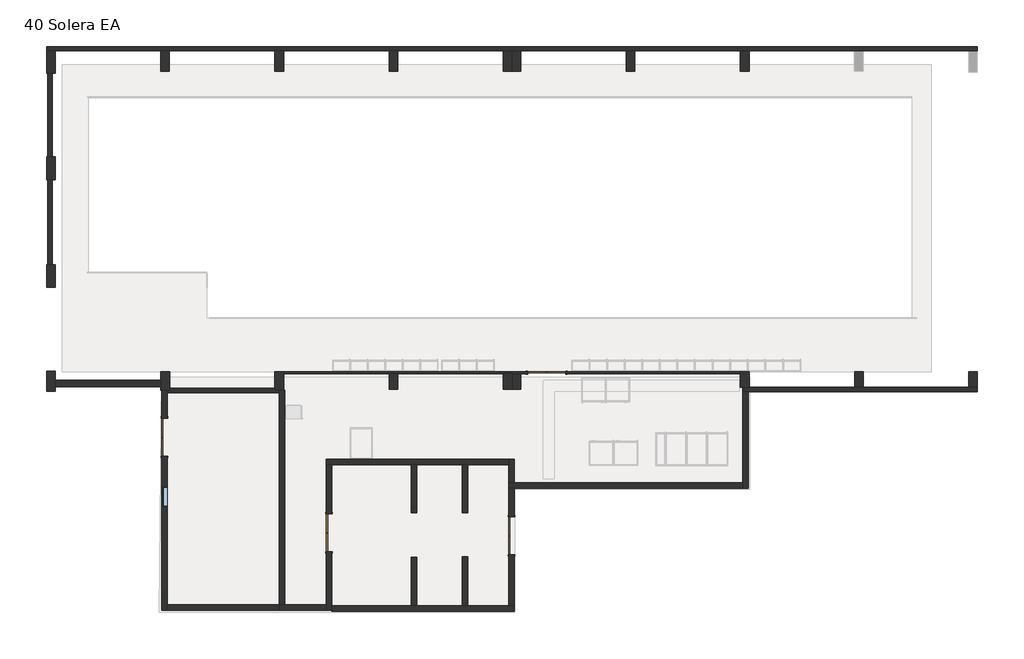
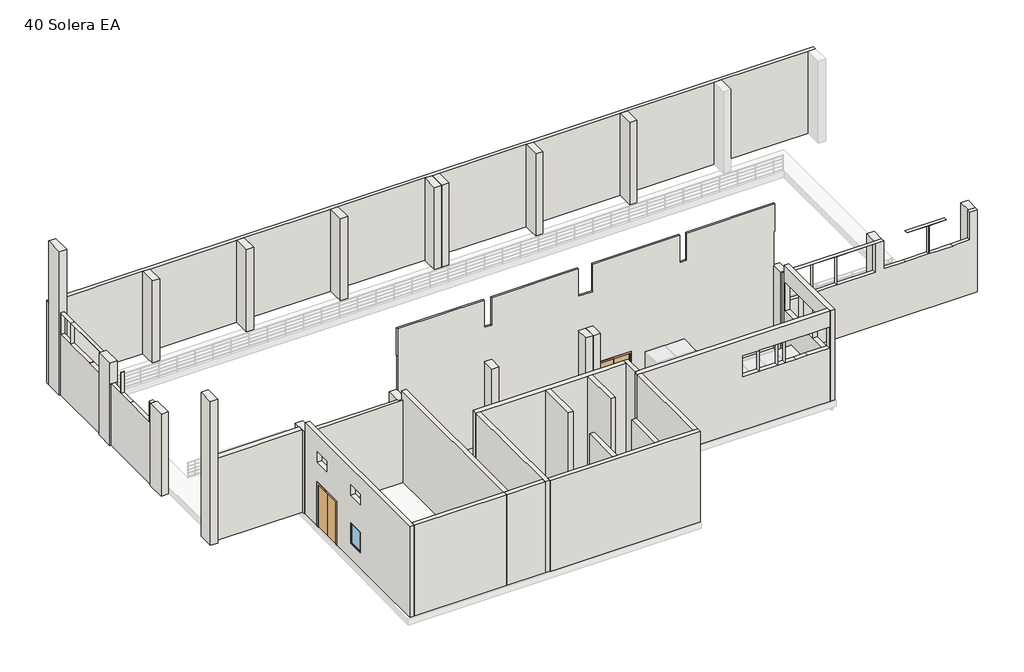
# One storey, part 1 of 3: 41 walls, 4 doors, 1 window.
"""IFC4 building model written with IfcOpenShell, lengths in millimetres."""

from ifc_helpers import new_model, si_unit, frame, origin, place, context, project, spatial, polyline, outline, extrude, faceted_brep, transform, mapped, element, save
from components import door_1730_x_2500mm_2afba01b, door_1730_x_2500mm_de458978, fijo_0915_x_1220mm_3f3afe46

model = new_model("IFC4")

# Units and contexts
model_context = context("Model", 3, world=origin())
ifc_project = project(units=[si_unit("LENGTHUNIT", "METRE", prefix="MILLI")], contexts=[model_context])

# Site, building, storey
site = spatial("IfcSite", under=ifc_project)
building = spatial("IfcBuilding", under=site)
storey = spatial("IfcBuildingStorey", under=building, Name="40 Solera EA", Elevation=-1800.0)

# Doors
placement = place(None, origin())
door_1730_x_2500mm_shape = door_1730_x_2500mm_2afba01b(model_context)
element("IfcDoor", 1, ObjectType="Puerta atamborada de 2 hojas : 1730 x 2500mm", at=placement, inside=storey, context=model_context, shape_type="MappedRepresentation", body=[
    mapped(door_1730_x_2500mm_shape, transform((-6453.5311914, -6074.0986286, -1800.0), x_axis=(0.0, 1.0, 0.0), y_axis=(-1.0, 0.0, 0.0), z_axis=(0.0, 0.0, 1.0))),
])
element("IfcDoor", 2, ObjectType="Puerta atamborada de 2 hojas : 1730 x 2500mm", at=placement, inside=storey, context=model_context, shape_type="MappedRepresentation", body=[
    mapped(door_1730_x_2500mm_shape, transform((-13953.4635346, -1710.2899843, -1800.0), x_axis=(0.0, 1.0, 0.0), y_axis=(-1.0, 0.0, 0.0), z_axis=(0.0, 0.0, 1.0))),
])
element("IfcDoor", 3, ObjectType="Puerta atamborada de 2 hojas : 1730 x 2500mm", at=placement, inside=storey, context=model_context, shape_type="MappedRepresentation", body=[
    mapped(door_1730_x_2500mm_shape, transform((1846.4688086, -6207.5518891, -1800.0), x_axis=(0.0, 1.0, 0.0), y_axis=(-1.0, 0.0, 0.0), z_axis=(0.0, 0.0, 1.0))),
])
door_1730_x_2500mm_2_shape = door_1730_x_2500mm_de458978(model_context)
element("IfcDoor", 4, ObjectType="Puerta atamborada de 2 hojas : 1730 x 2500mm", at=placement, inside=storey, context=model_context, shape_type="MappedRepresentation", body=[
    mapped(door_1730_x_2500mm_2_shape, transform((3448.1881312, 1213.4120119, -1800.0), x_axis=(1.0, 0.0, 0.0), y_axis=(0.0, 1.0, 0.0), z_axis=(0.0, 0.0, 1.0))),
])

# Walls
element("IfcWall", 5, ObjectType="Genérico - 200 mm", at=placement, inside=storey, context=model_context, shape_type="Brep", body=[
    faceted_brep([(-19327.8798655, 15874.7100157, -1800.0), (-18927.8798655, 15874.7100157, -1800.0), (-14127.8798655, 15874.7100157, -1800.0), (-13727.8798655, 15874.7100157, -1800.0), (-8927.8798655, 15874.7100157, -1800.0), (-8527.8798655, 15874.7100157, -1800.0), (-3727.8798655, 15874.7100157, -1800.0), (-3327.8798655, 15874.7100157, -1800.0), (1472.1201345, 15874.7100157, -1800.0), (1872.1201345, 15874.7100157, -1800.0), (2272.1201345, 15874.7100157, -1800.0), (7072.1201345, 15874.7100157, -1800.0), (7472.1201345, 15874.7100157, -1800.0), (12272.1201345, 15874.7100157, -1800.0), (12672.1201345, 15874.7100157, -1800.0), (17472.1201345, 15874.7100157, -1800.0), (17872.1201345, 15874.7100157, -1800.0), (22672.1201345, 15874.7100157, -1800.0), (23072.1201345, 15874.7100157, -1800.0), (23072.1201345, 15874.7100157, 3000.0), (22672.1201345, 15874.7100157, 3000.0), (17872.1201345, 15874.7100157, 3000.0), (17472.1201345, 15874.7100157, 3000.0), (12672.1201345, 15874.7100157, 3000.0), (12272.1201345, 15874.7100157, 3000.0), (7472.1201345, 15874.7100157, 3000.0), (7072.1201345, 15874.7100157, 3000.0), (2272.1201345, 15874.7100157, 3000.0), (1872.1201345, 15874.7100157, 3000.0), (1472.1201345, 15874.7100157, 3000.0), (-3327.8798655, 15874.7100157, 3000.0), (-3727.8798655, 15874.7100157, 3000.0), (-8527.8798655, 15874.7100157, 3000.0), (-8927.8798655, 15874.7100157, 3000.0), (-13727.8798655, 15874.7100157, 3000.0), (-14127.8798655, 15874.7100157, 3000.0), (-19327.8798655, 15874.7100157, 3000.0), (-19327.8798655, 16074.7100157, -1800.0), (-19327.8798655, 16074.7100157, 3000.0), (23072.1201345, 16074.7100157, 3000.0), (23072.1201345, 16074.7100157, -1800.0)], [[[0, 1, 2, 3, 4, 5, 6, 7, 8, 9, 10, 11, 12, 13, 14, 15, 16, 17, 18, 19, 20, 21, 22, 23, 24, 25, 26, 27, 28, 29, 30, 31, 32, 33, 34, 35, 36]], [[37, 38, 39, 40]], [[18, 17, 16, 15, 14, 13, 12, 11, 10, 9, 8, 7, 6, 5, 4, 3, 2, 1, 0, 37, 40]], [[36, 35, 34, 33, 32, 31, 30, 29, 28, 27, 26, 25, 24, 23, 22, 21, 20, 19, 39, 38]], [[19, 18, 40, 39]], [[0, 36, 38, 37]]]),
])
element("IfcWall", 6, ObjectType="Genérico - 200 mm", at=placement, inside=storey, context=model_context, shape_type="Brep", body=[
    faceted_brep([(23073.1881312, 554.7100157, -1800.0), (22673.1881312, 554.7100157, -1800.0), (17873.1881312, 554.7100157, -1800.0), (17473.1881312, 554.7100157, -1800.0), (12673.1881312, 554.7100157, -1800.0), (12381.4688086, 554.7100157, -1800.0), (12381.4688086, 554.7100157, 3000.0), (12673.1881312, 554.7100157, 3000.0), (17473.1881312, 554.7100157, 3000.0), (17873.1881312, 554.7100157, 3000.0), (17881.0753154, 554.7100157, 3000.0), (17881.0753154, 554.7100157, 1354.7269681), (19087.2499965, 554.7100157, 1354.7269681), (19087.2499965, 554.7100157, 1347.1972914), (20387.2499965, 554.7100157, 1347.1972914), (20387.2499965, 554.7100157, 2997.1972914), (19181.0753154, 554.7100157, 2997.1972914), (19181.0753154, 554.7100157, 3000.0), (21352.5869044, 554.7100157, 3000.0), (21352.5869044, 554.7100157, 2997.1972914), (20406.4122233, 554.7100157, 2997.1972914), (20406.4122233, 554.7100157, 1347.1972914), (21706.4122233, 554.7100157, 1347.1972914), (21706.4122233, 554.7100157, 1369.7863215), (22652.5869044, 554.7100157, 1369.7863215), (22652.5869044, 554.7100157, 3000.0), (22673.1881312, 554.7100157, 3000.0), (23073.1881312, 554.7100157, 3000.0), (13996.6155946, 554.7100157, 2972.2566448), (13996.6155946, 554.7100157, 1322.2566448), (15296.6155946, 554.7100157, 1322.2566448), (15296.6155946, 554.7100157, 2972.2566448), (17409.2039605, 554.7100157, 1322.2566448), (17409.2039605, 554.7100157, 2972.2566448), (15310.5591548, 554.7100157, 2972.2566448), (15310.5591548, 554.7100157, 1322.2566448), (12679.0869796, 554.7100157, 2977.1972914), (12679.0869796, 554.7100157, 1327.1972914), (13979.0869796, 554.7100157, 1327.1972914), (13979.0869796, 554.7100157, 2977.1972914), (12381.4688086, 354.7100157, -1800.0), (23073.1881312, 354.7100157, -1800.0), (23073.1881312, 354.7100157, 3000.0), (22652.5869044, 354.7100157, 3000.0), (22652.5869044, 354.7100157, 1369.7863215), (21706.4122233, 354.7100157, 1369.7863215), (21706.4122233, 354.7100157, 1347.1972914), (20406.4122233, 354.7100157, 1347.1972914), (20406.4122233, 354.7100157, 2997.1972914), (21352.5869044, 354.7100157, 2997.1972914), (21352.5869044, 354.7100157, 3000.0), (19181.0753154, 354.7100157, 3000.0), (19181.0753154, 354.7100157, 2997.1972914), (20387.2499965, 354.7100157, 2997.1972914), (20387.2499965, 354.7100157, 1347.1972914), (19087.2499965, 354.7100157, 1347.1972914), (19087.2499965, 354.7100157, 1354.7269681), (17881.0753154, 354.7100157, 1354.7269681), (17881.0753154, 354.7100157, 3000.0), (12381.4688086, 354.7100157, 3000.0), (13996.6155946, 354.7100157, 1322.2566448), (13996.6155946, 354.7100157, 2972.2566448), (15296.6155946, 354.7100157, 2972.2566448), (15296.6155946, 354.7100157, 1322.2566448), (17409.2039605, 354.7100157, 2972.2566448), (17409.2039605, 354.7100157, 1322.2566448), (15310.5591548, 354.7100157, 1322.2566448), (15310.5591548, 354.7100157, 2972.2566448), (12679.0869796, 354.7100157, 1327.1972914), (12679.0869796, 354.7100157, 2977.1972914), (13979.0869796, 354.7100157, 2977.1972914), (13979.0869796, 354.7100157, 1327.1972914)], [[[0, 1, 2, 3, 4, 5, 6, 7, 8, 9, 10, 11, 12, 13, 14, 15, 16, 17, 18, 19, 20, 21, 22, 23, 24, 25, 26, 27], [28, 29, 30, 31], [32, 33, 34, 35], [36, 37, 38, 39]], [[40, 41, 42, 43, 44, 45, 46, 47, 48, 49, 50, 51, 52, 53, 54, 55, 56, 57, 58, 59], [60, 61, 62, 63], [64, 65, 66, 67], [68, 69, 70, 71]], [[5, 4, 3, 2, 1, 0, 41, 40]], [[42, 27, 26, 25, 43]], [[17, 51, 50, 18]], [[10, 9, 8, 7, 6, 59, 58]], [[0, 27, 42, 41]], [[60, 29, 28, 61]], [[61, 28, 31, 62]], [[62, 31, 30, 63]], [[29, 60, 63, 30]], [[34, 67, 66, 35]], [[67, 34, 33, 64]], [[64, 33, 32, 65]], [[35, 66, 65, 32]], [[55, 13, 12, 56]], [[15, 53, 52, 16]], [[53, 15, 14, 54]], [[13, 55, 54, 14]], [[19, 18, 50, 49]], [[24, 44, 43, 25]], [[44, 24, 23, 45]], [[57, 11, 10, 58]], [[51, 17, 16, 52]], [[11, 57, 56, 12]], [[47, 21, 20, 48]], [[22, 46, 45, 23]], [[21, 47, 46, 22]], [[68, 37, 36, 69]], [[38, 71, 70, 39]], [[37, 68, 71, 38]], [[48, 20, 19, 49]], [[39, 70, 69, 36]], [[6, 5, 40, 59]]]),
])
element("IfcWall", 7, ObjectType="Genérico - 200 mm", at=placement, inside=storey, context=model_context, shape_type="SweptSolid", body=[
    extrude(outline(polyline([(10004.7100157, -1800.0), (6144.7100157, -1800.0), (6144.7100157, 3000.0), (6344.7100157, 3000.0), (6344.7100157, 1793.8402223), (8174.7100157, 1793.8402223), (8174.7100157, 1780.2623266), (9089.7100157, 1780.2623266), (9089.7100157, 3000.0), (9094.7100157, 3000.0), (9094.7100157, 1780.0), (10004.7100157, 1780.0), (10004.7100157, -1800.0)])), frame((-19266.8118688, 0.0, 0.0), z_axis=(1.0, 0.0, 0.0), x_axis=(0.0, 1.0, 0.0)), (0.0, 0.0, 1.0), 200.0),
])
element("IfcWall", 8, ObjectType="Retención - Hormigón 250 mm", at=placement, inside=storey, context=model_context, shape_type="Brep", body=[
    faceted_brep([(12381.4688086, 354.7100157, -1800.0), (12381.4688086, -3792.5518891, -1800.0), (12381.4688086, -4042.5518891, -1800.0), (12381.4688086, -4042.5518891, 3500.0), (12381.4688086, -3792.5518891, 3500.0), (12381.4688086, 354.7100157, 3500.0), (12381.4688086, -2347.7899843, 2526.835855), (12381.4688086, -2347.7899843, 876.835855), (12381.4688086, -1047.7899843, 876.835855), (12381.4688086, -1047.7899843, 2526.835855), (12381.4688086, -1032.7899843, 2521.074937), (12381.4688086, -1032.7899843, 871.074937), (12381.4688086, 267.2100157, 871.074937), (12381.4688086, 267.2100157, 2521.074937), (12381.4688086, -3665.0518891, 2522.5967729), (12381.4688086, -3665.0518891, 872.5967729), (12381.4688086, -2365.0518891, 872.5967729), (12381.4688086, -2365.0518891, 2522.5967729), (12631.4688086, -4042.5518891, -1800.0), (12631.4688086, 354.7100157, -1800.0), (12631.4688086, 354.7100157, 3500.0), (12631.4688086, -4042.5518891, 3500.0), (12631.4688086, -2347.7899843, 876.835855), (12631.4688086, -2347.7899843, 2526.835855), (12631.4688086, -1047.7899843, 2526.835855), (12631.4688086, -1047.7899843, 876.835855), (12631.4688086, -1032.7899843, 871.074937), (12631.4688086, -1032.7899843, 2521.074937), (12631.4688086, 267.2100157, 2521.074937), (12631.4688086, 267.2100157, 871.074937), (12631.4688086, -3665.0518891, 872.5967729), (12631.4688086, -3665.0518891, 2522.5967729), (12631.4688086, -2365.0518891, 2522.5967729), (12631.4688086, -2365.0518891, 872.5967729)], [[[0, 1, 2, 3, 4, 5], [6, 7, 8, 9], [10, 11, 12, 13], [14, 15, 16, 17]], [[18, 19, 20, 21], [22, 23, 24, 25], [26, 27, 28, 29], [30, 31, 32, 33]], [[2, 1, 0, 19, 18]], [[5, 4, 3, 21, 20]], [[3, 2, 18, 21]], [[22, 7, 6, 23]], [[9, 24, 23, 6]], [[24, 9, 8, 25]], [[7, 22, 25, 8]], [[26, 11, 10, 27]], [[27, 10, 13, 28]], [[28, 13, 12, 29]], [[11, 26, 29, 12]], [[30, 15, 14, 31]], [[31, 14, 17, 32]], [[16, 33, 32, 17]], [[15, 30, 33, 16]], [[0, 5, 20, 19]]]),
])
element("IfcWall", 9, ObjectType="Retención - Hormigón 250 mm", at=placement, inside=storey, context=model_context, shape_type="Brep", body=[
    faceted_brep([(12381.4688086, -3792.5518891, -1800.0), (1971.4688086, -3792.5518891, -1800.0), (1721.4688086, -3792.5518891, -1800.0), (1721.4688086, -3792.5518891, 3500.0), (1971.4688086, -3792.5518891, 3500.0), (12381.4688086, -3792.5518891, 3500.0), (11121.4688086, -3792.5518891, 2544.1577348), (10511.4688086, -3792.5518891, 2544.1577348), (10511.4688086, -3792.5518891, 2543.3524925), (9901.4688086, -3792.5518891, 2543.3524925), (9901.4688086, -3792.5518891, 1323.3524925), (10511.4688086, -3792.5518891, 1323.3524925), (10511.4688086, -3792.5518891, 1324.1577348), (11121.4688086, -3792.5518891, 1324.1577348), (11121.4688086, -3792.5518891, 1323.310356), (12341.4688086, -3792.5518891, 1323.3885309), (12341.4688086, -3792.5518891, 2543.3885309), (11121.4688086, -3792.5518891, 2543.310356), (9488.9688086, -3792.5518891, 1322.5051137), (9488.9688086, -3792.5518891, 2542.5051137), (8473.4688086, -3792.5518891, 2542.5051137), (8473.4688086, -3792.5518891, 1322.5051137), (7553.9688086, -3792.5518891, 2540.810356), (7553.9688086, -3792.5518891, 1320.810356), (8468.9688086, -3792.5518891, 1320.810356), (8468.9688086, -3792.5518891, 2540.810356), (9492.4688086, -3792.5518891, 2542.5051137), (9492.4688086, -3792.5518891, 1322.5051137), (9898.4688086, -3792.5518891, 1322.5051137), (9898.4688086, -3792.5518891, 2542.5051137), (1721.4688086, -4042.5518891, -1800.0), (1971.4688086, -4042.5518891, -1800.0), (12381.4688086, -4042.5518891, -1800.0), (12381.4688086, -4042.5518891, 3500.0), (1971.4688086, -4042.5518891, 3500.0), (1721.4688086, -4042.5518891, 3500.0), (11121.4688086, -4042.5518891, 1323.310356), (11121.4688086, -4042.5518891, 1324.1577348), (10511.4688086, -4042.5518891, 1324.1577348), (10511.4688086, -4042.5518891, 1323.3524925), (9901.4688086, -4042.5518891, 1323.3524925), (9901.4688086, -4042.5518891, 2543.3524925), (10511.4688086, -4042.5518891, 2543.3524925), (10511.4688086, -4042.5518891, 2544.1577348), (11121.4688086, -4042.5518891, 2544.1577348), (11121.4688086, -4042.5518891, 2543.310356), (12341.4688086, -4042.5518891, 2543.3885309), (12341.4688086, -4042.5518891, 1323.3885309), (9488.9688086, -4042.5518891, 2542.5051137), (9488.9688086, -4042.5518891, 1322.5051137), (8473.4688086, -4042.5518891, 1322.5051137), (8473.4688086, -4042.5518891, 2542.5051137), (7553.9688086, -4042.5518891, 1320.810356), (7553.9688086, -4042.5518891, 2540.810356), (8468.9688086, -4042.5518891, 2540.810356), (8468.9688086, -4042.5518891, 1320.810356), (9492.4688086, -4042.5518891, 1322.5051137), (9492.4688086, -4042.5518891, 2542.5051137), (9898.4688086, -4042.5518891, 2542.5051137), (9898.4688086, -4042.5518891, 1322.5051137)], [[[0, 1, 2, 3, 4, 5], [6, 7, 8, 9, 10, 11, 12, 13, 14, 15, 16, 17], [18, 19, 20, 21], [22, 23, 24, 25], [26, 27, 28, 29]], [[30, 31, 32, 33, 34, 35], [36, 37, 38, 39, 40, 41, 42, 43, 44, 45, 46, 47], [48, 49, 50, 51], [52, 53, 54, 55], [56, 57, 58, 59]], [[2, 1, 0, 32, 31, 30]], [[5, 4, 3, 35, 34, 33]], [[0, 5, 33, 32]], [[3, 2, 30, 35]], [[36, 14, 13, 37]], [[7, 43, 42, 8]], [[43, 7, 6, 44]], [[44, 6, 17, 45]], [[13, 12, 38, 37]], [[40, 10, 9, 41]], [[41, 9, 8, 42]], [[11, 39, 38, 12]], [[39, 11, 10, 40]], [[48, 19, 18, 49]], [[51, 50, 21, 20]], [[19, 48, 51, 20]], [[49, 18, 21, 50]], [[52, 23, 22, 53]], [[53, 22, 25, 54]], [[54, 25, 24, 55]], [[23, 52, 55, 24]], [[26, 57, 56, 27]], [[57, 26, 29, 58]], [[58, 29, 28, 59]], [[28, 27, 56, 59]], [[16, 46, 45, 17]], [[46, 16, 15, 47]], [[14, 36, 47, 15]]]),
])
element("IfcWall", 10, ObjectType="Retención - Hormigón 250 mm", at=placement, inside=storey, context=model_context, shape_type="Brep", body=[
    faceted_brep([(1971.4688086, -3792.5518891, -1800.0), (1971.4688086, -2719.0986286, -1800.0), (1971.4688086, -2719.0986286, 3500.0), (1971.4688086, -3792.5518891, 3500.0), (1721.4688086, -3792.5518891, -1800.0), (1721.4688086, -3792.5518891, 3500.0), (1721.4688086, -2969.0986286, 3500.0), (1721.4688086, -2719.0986286, 3500.0), (1721.4688086, -2719.0986286, -1800.0), (1721.4688086, -2969.0986286, -1800.0)], [[[0, 1, 2, 3]], [[4, 5, 6, 7, 8, 9]], [[1, 0, 4, 9, 8]], [[3, 2, 7, 6, 5]], [[0, 3, 5, 4]], [[2, 1, 8, 7]]]),
])
element("IfcWall", 11, ObjectType="Retención - Hormigón 250 mm", at=placement, inside=storey, context=model_context, shape_type="Brep", body=[
    faceted_brep([(1721.4688086, -2719.0986286, -1800.0), (-6578.5311914, -2719.0986286, -1800.0), (-6578.5311914, -2719.0986286, 3500.0), (1721.4688086, -2719.0986286, 3500.0), (1721.4688086, -2969.0986286, -1800.0), (1721.4688086, -2969.0986286, 3500.0), (-151.3649196, -2969.0986286, 3500.0), (-401.3649196, -2969.0986286, 3500.0), (-2473.5311914, -2969.0986286, 3500.0), (-2723.5311914, -2969.0986286, 3500.0), (-6328.5311914, -2969.0986286, 3500.0), (-6578.5311914, -2969.0986286, 3500.0), (-6578.5311914, -2969.0986286, -1800.0), (-6328.5311914, -2969.0986286, -1800.0), (-2723.5311914, -2969.0986286, -1800.0), (-2473.5311914, -2969.0986286, -1800.0), (-401.3649196, -2969.0986286, -1800.0), (-151.3649196, -2969.0986286, -1800.0)], [[[0, 1, 2, 3]], [[4, 5, 6, 7, 8, 9, 10, 11, 12, 13, 14, 15, 16, 17]], [[1, 0, 4, 17, 16, 15, 14, 13, 12]], [[3, 2, 11, 10, 9, 8, 7, 6, 5]], [[0, 3, 5, 4]], [[2, 1, 12, 11]]]),
])
element("IfcWall", 12, ObjectType="Retención - Hormigón 250 mm", at=placement, inside=storey, context=model_context, shape_type="Brep", body=[
    faceted_brep([(-6578.5311914, -9609.0986286, 3500.0), (-6578.5311914, -9359.0986286, 3500.0), (-6578.5311914, -2969.0986286, 3500.0), (-6578.5311914, -2969.0986286, -1800.0), (-6578.5311914, -5209.0986286, -1800.0), (-6578.5311914, -5209.0986286, 700.0), (-6578.5311914, -6939.0986286, 700.0), (-6578.5311914, -6939.0986286, -1800.0), (-6578.5311914, -9359.0986286, -1800.0), (-6578.5311914, -9609.0986286, -1800.0), (-6328.5311914, -2969.0986286, 3500.0), (-6328.5311914, -9402.5685795, 3500.0), (-6328.5311914, -9609.0986286, 3500.0), (-6328.5311914, -9609.0986286, -1800.0), (-6328.5311914, -9402.5685795, -1800.0), (-6328.5311914, -6939.0986286, -1800.0), (-6328.5311914, -6939.0986286, 700.0), (-6328.5311914, -5209.0986286, 700.0), (-6328.5311914, -5209.0986286, -1800.0), (-6328.5311914, -2969.0986286, -1800.0)], [[[0, 1, 2, 3, 4, 5, 6, 7, 8, 9]], [[10, 11, 12, 13, 14, 15, 16, 17, 18, 19]], [[3, 19, 18, 4]], [[13, 9, 8, 7, 15, 14]], [[2, 1, 0, 12, 11, 10]], [[3, 2, 10, 19]], [[0, 9, 13, 12]], [[17, 5, 4, 18]], [[5, 17, 16, 6]], [[6, 16, 15, 7]]]),
])
element("IfcWall", 13, ObjectType="Retención - Hormigón 250 mm", at=placement, inside=storey, context=model_context, shape_type="Brep", body=[
    faceted_brep([(-6578.5311914, -9359.0986286, -1800.0), (-8468.5311914, -9359.0986286, -1800.0), (-8718.5311914, -9359.0986286, -1800.0), (-8718.5311914, -9359.0986286, 3500.0), (-8468.5311914, -9359.0986286, 3500.0), (-6578.5311914, -9359.0986286, 3500.0), (-6578.5311914, -9609.0986286, -1800.0), (-6578.5311914, -9609.0986286, 3500.0), (-8718.5311914, -9609.0986286, 3500.0), (-8718.5311914, -9609.0986286, -1800.0)], [[[0, 1, 2, 3, 4, 5]], [[6, 7, 8, 9]], [[2, 1, 0, 6, 9]], [[5, 4, 3, 8, 7]], [[0, 5, 7, 6]], [[3, 2, 9, 8]]]),
])
element("IfcWall", 14, ObjectType="Retención - Hormigón 250 mm", at=placement, inside=storey, context=model_context, shape_type="Brep", body=[
    faceted_brep([(-8468.5311914, -9359.0986286, -1800.0), (-8468.5311914, 412.2136056, -1800.0), (-8468.5311914, 412.2136056, 3500.0), (-8468.5311914, -9359.0986286, 3500.0), (-8718.5311914, -9359.0986286, -1800.0), (-8718.5311914, -9359.0986286, 3500.0), (-8718.5311914, 412.2136056, 3500.0), (-8718.5311914, 412.2136056, 3000.0), (-8718.5311914, 412.2136056, -1800.0), (-8718.5311914, 312.2136056, -1800.0)], [[[0, 1, 2, 3]], [[4, 5, 6, 7, 8, 9]], [[1, 0, 4, 9, 8]], [[2, 1, 8, 7, 6]], [[3, 2, 6, 5]], [[0, 3, 5, 4]]]),
])
element("IfcWall", 15, ObjectType="Retención - Hormigón 250 mm", at=placement, inside=storey, context=model_context, shape_type="Brep", body=[
    faceted_brep([(-14078.4635346, -9609.0986286, 3500.0), (-14078.4635346, 412.2136056, 3500.0), (-14078.4635346, 412.2136056, -1800.0), (-14078.4635346, -845.2899843, -1800.0), (-14078.4635346, -845.2899843, 700.0), (-14078.4635346, -2575.2899843, 700.0), (-14078.4635346, -2575.2899843, -1800.0), (-14078.4635346, -9609.0986286, -1800.0), (-14078.4635346, -1660.2899843, 1913.2756678), (-14078.4635346, -745.2899843, 1913.2756678), (-14078.4635346, -745.2899843, 2523.2756678), (-14078.4635346, -1660.2899843, 2523.2756678), (-14078.4635346, -4875.2899843, 1929.6506121), (-14078.4635346, -3960.2899843, 1929.6506121), (-14078.4635346, -3960.2899843, 2539.6506121), (-14078.4635346, -4875.2899843, 2539.6506121), (-14078.4635346, -4890.2899843, -885.0), (-14078.4635346, -3975.2899843, -885.0), (-14078.4635346, -3975.2899843, 335.0), (-14078.4635346, -4890.2899843, 335.0), (-13828.4635346, 412.2136056, 3500.0), (-13828.4635346, -9359.0986286, 3500.0), (-13828.4635346, -9609.0986286, 3500.0), (-13828.4635346, -9609.0986286, -1800.0), (-13828.4635346, -9359.0986286, -1800.0), (-13828.4635346, -2575.2899843, -1800.0), (-13828.4635346, -2575.2899843, 700.0), (-13828.4635346, -845.2899843, 700.0), (-13828.4635346, -845.2899843, -1800.0), (-13828.4635346, 312.2136056, -1800.0), (-13828.4635346, 412.2136056, -1800.0), (-13828.4635346, 412.2136056, 3000.0), (-13828.4635346, -1660.2899843, 1913.2756678), (-13828.4635346, -1660.2899843, 2523.2756678), (-13828.4635346, -745.2899843, 2523.2756678), (-13828.4635346, -745.2899843, 1913.2756678), (-13828.4635346, -4875.2899843, 1929.6506121), (-13828.4635346, -4875.2899843, 2539.6506121), (-13828.4635346, -3960.2899843, 2539.6506121), (-13828.4635346, -3960.2899843, 1929.6506121), (-13828.4635346, -4890.2899843, -885.0), (-13828.4635346, -4890.2899843, 335.0), (-13828.4635346, -3975.2899843, 335.0), (-13828.4635346, -3975.2899843, -885.0)], [[[0, 1, 2, 3, 4, 5, 6, 7], [8, 9, 10, 11], [12, 13, 14, 15], [16, 17, 18, 19]], [[20, 21, 22, 23, 24, 25, 26, 27, 28, 29, 30, 31], [32, 33, 34, 35], [36, 37, 38, 39], [40, 41, 42, 43]], [[2, 30, 29, 28, 3]], [[23, 7, 6, 25, 24]], [[1, 0, 22, 21, 20]], [[2, 1, 20, 31, 30]], [[0, 7, 23, 22]], [[27, 4, 3, 28]], [[4, 27, 26, 5]], [[5, 26, 25, 6]], [[33, 32, 8, 11]], [[34, 33, 11, 10]], [[35, 34, 10, 9]], [[32, 35, 9, 8]], [[37, 36, 12, 15]], [[38, 37, 15, 14]], [[39, 38, 14, 13]], [[36, 39, 13, 12]], [[41, 40, 16, 19]], [[42, 41, 19, 18]], [[43, 42, 18, 17]], [[40, 43, 17, 16]]]),
])
element("IfcWall", 16, ObjectType="Retención - Hormigón 250 mm", at=placement, inside=storey, context=model_context, shape_type="SweptSolid", body=[
    extrude(outline(polyline([(-8718.5311914, -9609.0986286), (-13828.4635346, -9609.0986286), (-13828.4635346, -9359.0986286), (-8718.5311914, -9359.0986286), (-8718.5311914, -9609.0986286)])), frame((0.0, 0.0, -1800.0), z_axis=(0.0, 0.0, 1.0), x_axis=(1.0, 0.0, 0.0)), (0.0, 0.0, 1.0), 5300.0),
])
element("IfcWall", 17, ObjectType="Retención - Hormigón 250 mm", at=placement, inside=storey, context=model_context, shape_type="Brep", body=[
    faceted_brep([(-6328.5311914, -9652.5685795, -1800.0), (1971.4688086, -9652.5685795, -1800.0), (1971.4688086, -9652.5685795, 3500.0), (-6328.5311914, -9652.5685795, 3500.0), (-6328.5311914, -9402.5685795, -1800.0), (-6328.5311914, -9402.5685795, 3500.0), (-2723.5311914, -9402.5685795, 3500.0), (-2473.5311914, -9402.5685795, 3500.0), (-398.9929263, -9402.5685795, 3500.0), (-148.9929263, -9402.5685795, 3500.0), (1721.4688086, -9402.5685795, 3500.0), (1971.4688086, -9402.5685795, 3500.0), (1971.4688086, -9402.5685795, -1800.0), (1721.4688086, -9402.5685795, -1800.0), (-148.9929263, -9402.5685795, -1800.0), (-398.9929263, -9402.5685795, -1800.0), (-2473.5311914, -9402.5685795, -1800.0), (-2723.5311914, -9402.5685795, -1800.0), (-6328.5311914, -9609.0986286, -1800.0), (-6328.5311914, -9609.0986286, 3500.0)], [[[0, 1, 2, 3]], [[4, 5, 6, 7, 8, 9, 10, 11, 12, 13, 14, 15, 16, 17]], [[1, 0, 18, 4, 17, 16, 15, 14, 13, 12]], [[3, 2, 11, 10, 9, 8, 7, 6, 5, 19]], [[0, 3, 19, 5, 4, 18]], [[2, 1, 12, 11]]]),
])
element("IfcWall", 18, ObjectType="Retención - Hormigón 250 mm", at=placement, inside=storey, context=model_context, shape_type="SweptSolid", body=[
    extrude(outline(polyline([(-9402.5685795, 3500.0), (-4042.5518891, 3500.0), (-4042.5518891, -1800.0), (-5342.5518891, -1800.0), (-5342.5518891, 700.0), (-7072.5518891, 700.0), (-7072.5518891, -1800.0), (-9402.5685795, -1800.0), (-9402.5685795, 3500.0)])), frame((1721.4688086, 0.0, 0.0), z_axis=(1.0, 0.0, 0.0), x_axis=(0.0, 1.0, 0.0)), (0.0, 0.0, 1.0), 250.0),
])
element("IfcWall", 19, ObjectType="Retención - Hormigón 250 mm", at=placement, inside=storey, context=model_context, shape_type="SweptSolid", body=[
    extrude(outline(polyline([(-2473.5311914, -2969.0986286), (-2473.5311914, -5155.8043129), (-2723.5311914, -5155.8043129), (-2723.5311914, -2969.0986286), (-2473.5311914, -2969.0986286)])), frame((0.0, 0.0, -1800.0), z_axis=(0.0, 0.0, 1.0), x_axis=(1.0, 0.0, 0.0)), (0.0, 0.0, 1.0), 5300.0),
])
element("IfcWall", 20, ObjectType="Retención - Hormigón 250 mm", at=placement, inside=storey, context=model_context, shape_type="SweptSolid", body=[
    extrude(outline(polyline([(-151.3649196, -2969.0986286), (-151.3649196, -5167.6505023), (-401.3649196, -5167.6505023), (-401.3649196, -2969.0986286), (-151.3649196, -2969.0986286)])), frame((0.0, 0.0, -1800.0), z_axis=(0.0, 0.0, 1.0), x_axis=(1.0, 0.0, 0.0)), (0.0, 0.0, 1.0), 5300.0),
])
element("IfcWall", 21, ObjectType="Retención - Hormigón 250 mm", at=placement, inside=storey, context=model_context, shape_type="SweptSolid", body=[
    extrude(outline(polyline([(-2473.5311914, -7175.9761802), (-2473.5311914, -9402.5685795), (-2723.5311914, -9402.5685795), (-2723.5311914, -7175.9761802), (-2473.5311914, -7175.9761802)])), frame((0.0, 0.0, -1800.0), z_axis=(0.0, 0.0, 1.0), x_axis=(1.0, 0.0, 0.0)), (0.0, 0.0, 1.0), 5300.0),
])
element("IfcWall", 22, ObjectType="Retención - Hormigón 250 mm", at=placement, inside=storey, context=model_context, shape_type="SweptSolid", body=[
    extrude(outline(polyline([(-398.9929263, -9402.5685795), (-398.9929263, -7165.4063689), (-148.9929263, -7165.4063689), (-148.9929263, -9402.5685795), (-398.9929263, -9402.5685795)])), frame((0.0, 0.0, -1800.0), z_axis=(0.0, 0.0, 1.0), x_axis=(1.0, 0.0, 0.0)), (0.0, 0.0, 1.0), 5300.0),
])
element("IfcWall", 23, ObjectType="Retención - Hormigón 400 mm", at=placement, inside=storey, context=model_context, shape_type="SweptSolid", body=[
    extrude(outline(polyline([(-13727.8798655, 15874.7100157), (-13727.8798655, 14954.9279887), (-14127.8798655, 14954.9279887), (-14127.8798655, 15874.7100157), (-13727.8798655, 15874.7100157)])), frame((0.0, 0.0, -1800.0), z_axis=(0.0, 0.0, 1.0), x_axis=(1.0, 0.0, 0.0)), (0.0, 0.0, 1.0), 4800.0),
])
element("IfcWall", 24, ObjectType="Retención - Hormigón 400 mm", at=placement, inside=storey, context=model_context, shape_type="SweptSolid", body=[
    extrude(outline(polyline([(-8527.8798655, 15874.7100157), (-8527.8798655, 14954.9279887), (-8927.8798655, 14954.9279887), (-8927.8798655, 15874.7100157), (-8527.8798655, 15874.7100157)])), frame((0.0, 0.0, -1800.0), z_axis=(0.0, 0.0, 1.0), x_axis=(1.0, 0.0, 0.0)), (0.0, 0.0, 1.0), 4800.0),
])
element("IfcWall", 25, ObjectType="Retención - Hormigón 400 mm", at=placement, inside=storey, context=model_context, shape_type="SweptSolid", body=[
    extrude(outline(polyline([(-3327.8798655, 15874.7100157), (-3327.8798655, 14954.9279887), (-3727.8798655, 14954.9279887), (-3727.8798655, 15874.7100157), (-3327.8798655, 15874.7100157)])), frame((0.0, 0.0, -1800.0), z_axis=(0.0, 0.0, 1.0), x_axis=(1.0, 0.0, 0.0)), (0.0, 0.0, 1.0), 4800.0),
])
element("IfcWall", 26, ObjectType="Retención - Hormigón 400 mm", at=placement, inside=storey, context=model_context, shape_type="SweptSolid", body=[
    extrude(outline(polyline([(1872.1201345, 15874.7100157), (1872.1201345, 14954.9279887), (1472.1201345, 14954.9279887), (1472.1201345, 15874.7100157), (1872.1201345, 15874.7100157)])), frame((0.0, 0.0, -1800.0), z_axis=(0.0, 0.0, 1.0), x_axis=(1.0, 0.0, 0.0)), (0.0, 0.0, 1.0), 4800.0),
])
element("IfcWall", 27, ObjectType="Retención - Hormigón 400 mm", at=placement, inside=storey, context=model_context, shape_type="SweptSolid", body=[
    extrude(outline(polyline([(2272.1201345, 15874.7100157), (2272.1201345, 14954.9279887), (1872.1201345, 14954.9279887), (1872.1201345, 15874.7100157), (2272.1201345, 15874.7100157)])), frame((0.0, 0.0, -1800.0), z_axis=(0.0, 0.0, 1.0), x_axis=(1.0, 0.0, 0.0)), (0.0, 0.0, 1.0), 4800.0),
])
element("IfcWall", 28, ObjectType="Retención - Hormigón 400 mm", at=placement, inside=storey, context=model_context, shape_type="SweptSolid", body=[
    extrude(outline(polyline([(7472.1201345, 15874.7100157), (7472.1201345, 14954.9279887), (7072.1201345, 14954.9279887), (7072.1201345, 15874.7100157), (7472.1201345, 15874.7100157)])), frame((0.0, 0.0, -1800.0), z_axis=(0.0, 0.0, 1.0), x_axis=(1.0, 0.0, 0.0)), (0.0, 0.0, 1.0), 4800.0),
])
element("IfcWall", 29, ObjectType="Retención - Hormigón 400 mm", at=placement, inside=storey, context=model_context, shape_type="SweptSolid", body=[
    extrude(outline(polyline([(12672.1201345, 15874.7100157), (12672.1201345, 14954.9279887), (12272.1201345, 14954.9279887), (12272.1201345, 15874.7100157), (12672.1201345, 15874.7100157)])), frame((0.0, 0.0, -1800.0), z_axis=(0.0, 0.0, 1.0), x_axis=(1.0, 0.0, 0.0)), (0.0, 0.0, 1.0), 4800.0),
])
element("IfcWall", 30, ObjectType="Retención - Hormigón 400 mm", at=placement, inside=storey, context=model_context, shape_type="Brep", body=[
    faceted_brep([(-18927.8798655, 14854.7100157, 6600.0), (-18927.8798655, 14854.7100157, -1800.0), (-18927.8798655, 15874.7100157, -1800.0), (-18927.8798655, 15874.7100157, 6600.0), (-19327.8798655, 14854.7100157, -1800.0), (-19327.8798655, 14854.7100157, 6600.0), (-19327.8798655, 15874.7100157, 6600.0), (-19327.8798655, 15874.7100157, 3000.0), (-19327.8798655, 15874.7100157, -1800.0), (-19066.8118688, 14854.7100157, -1800.0), (-19266.8118688, 14854.7100157, -1800.0)], [[[0, 1, 2, 3]], [[4, 5, 6, 7, 8]], [[2, 1, 9, 10, 4, 8]], [[0, 3, 6, 5]], [[3, 2, 8, 7, 6]], [[0, 5, 4, 10, 9, 1]]]),
])
element("IfcWall", 31, ObjectType="Retención - Hormigón 400 mm", at=placement, inside=storey, context=model_context, shape_type="Brep", body=[
    faceted_brep([(-18927.8798655, 10004.7100157, -1800.0), (-18927.8798655, 11044.7100157, -1800.0), (-18927.8798655, 11044.7100157, 3000.0), (-18927.8798655, 10009.7100157, 3000.0), (-18927.8798655, 10009.7100157, 1780.0), (-18927.8798655, 10004.7100157, 1780.0), (-19327.8798655, 11044.7100157, -1800.0), (-19327.8798655, 10004.7100157, -1800.0), (-19327.8798655, 10004.7100157, 1780.0), (-19327.8798655, 10009.7100157, 1780.0), (-19327.8798655, 10009.7100157, 3000.0), (-19327.8798655, 11044.7100157, 3000.0), (-19066.8118688, 10004.7100157, -1800.0), (-19266.8118688, 10004.7100157, -1800.0), (-19266.8118688, 11044.7100157, -1800.0), (-19066.8118688, 11044.7100157, -1800.0), (-19266.8118688, 11044.7100157, 3000.0), (-19066.8118688, 11044.7100157, 3000.0), (-19066.8118688, 10004.7100157, 1780.0), (-19266.8118688, 10004.7100157, 1780.0)], [[[0, 1, 2, 3, 4, 5]], [[6, 7, 8, 9, 10, 11]], [[1, 0, 12, 13, 7, 6, 14, 15]], [[2, 1, 15, 14, 6, 11, 16, 17]], [[2, 17, 16, 11, 10, 3]], [[7, 13, 12, 0, 5, 18, 19, 8]], [[9, 4, 3, 10]], [[4, 9, 8, 19, 18, 5]]]),
])
element("IfcWall", 32, ObjectType="Genérico - 200 mm", at=placement, inside=storey, context=model_context, shape_type="SweptSolid", body=[
    extrude(outline(polyline([(14854.7100157, -1800.0), (11044.7100157, -1800.0), (11044.7100157, 3000.0), (14854.7100157, 3000.0), (14854.7100157, -1800.0)]), holes=[polyline([(13859.7100157, 1778.7949529), (14774.7100157, 1778.7949529), (14774.7100157, 2998.7949529), (13859.7100157, 2998.7949529), (13859.7100157, 1778.7949529)]), polyline([(13854.7100157, 1778.7949529), (13854.7100157, 2998.7949529), (12024.7100157, 2998.7949529), (12024.7100157, 2992.3728485), (11109.7100157, 2992.3728485), (11109.7100157, 1772.3728485), (12024.7100157, 1772.3728485), (12024.7100157, 1778.7949529), (13854.7100157, 1778.7949529)])]), frame((-19266.8118688, 0.0, 0.0), z_axis=(1.0, 0.0, 0.0), x_axis=(0.0, 1.0, 0.0)), (0.0, 0.0, 1.0), 200.0),
])
element("IfcWall", 33, ObjectType="Retención - Hormigón 400 mm", at=placement, inside=storey, context=model_context, shape_type="SweptSolid", body=[
    extrude(outline(polyline([(-13726.8118688, 1254.7100157), (-13726.8118688, 412.2136056), (-14126.8118688, 412.2136056), (-14126.8118688, 1254.7100157), (-13726.8118688, 1254.7100157)])), frame((0.0, 0.0, -1800.0), z_axis=(0.0, 0.0, 1.0), x_axis=(1.0, 0.0, 0.0)), (0.0, 0.0, 1.0), 4800.0),
])
element("IfcWall", 34, ObjectType="Retención - Hormigón 400 mm", at=placement, inside=storey, context=model_context, shape_type="SweptSolid", body=[
    extrude(outline(polyline([(-8526.8118688, 1254.7100157), (-8526.8118688, 412.2136056), (-8926.8118688, 412.2136056), (-8926.8118688, 1254.7100157), (-8526.8118688, 1254.7100157)])), frame((0.0, 0.0, -1800.0), z_axis=(0.0, 0.0, 1.0), x_axis=(1.0, 0.0, 0.0)), (0.0, 0.0, 1.0), 4800.0),
])
element("IfcWall", 35, ObjectType="Retención - Hormigón 400 mm", at=placement, inside=storey, context=model_context, shape_type="SweptSolid", body=[
    extrude(outline(polyline([(-3326.8118688, 1163.4120119), (-3326.8118688, 454.7100157), (-3726.8118688, 454.7100157), (-3726.8118688, 1163.4120119), (-3326.8118688, 1163.4120119)])), frame((0.0, 0.0, -1800.0), z_axis=(0.0, 0.0, 1.0), x_axis=(1.0, 0.0, 0.0)), (0.0, 0.0, 1.0), 4800.0),
])
element("IfcWall", 36, ObjectType="Retención - Hormigón 400 mm", at=placement, inside=storey, context=model_context, shape_type="SweptSolid", body=[
    extrude(outline(polyline([(1873.1881312, 1163.4120119), (1873.1881312, 454.7100157), (1473.1881312, 454.7100157), (1473.1881312, 1163.4120119), (1873.1881312, 1163.4120119)])), frame((0.0, 0.0, -1800.0), z_axis=(0.0, 0.0, 1.0), x_axis=(1.0, 0.0, 0.0)), (0.0, 0.0, 1.0), 4800.0),
])
element("IfcWall", 37, ObjectType="Retención - Hormigón 400 mm", at=placement, inside=storey, context=model_context, shape_type="SweptSolid", body=[
    extrude(outline(polyline([(2273.1881312, 1163.4120119), (2273.1881312, 454.7100157), (1873.1881312, 454.7100157), (1873.1881312, 1163.4120119), (2273.1881312, 1163.4120119)])), frame((0.0, 0.0, -1800.0), z_axis=(0.0, 0.0, 1.0), x_axis=(1.0, 0.0, 0.0)), (0.0, 0.0, 1.0), 4800.0),
])
element("IfcWall", 38, ObjectType="Retención - Hormigón 400 mm", at=placement, inside=storey, context=model_context, shape_type="Brep", body=[
    faceted_brep([(12673.1881312, 554.7100157, -1800.0), (12673.1881312, 1254.7100157, -1800.0), (12673.1881312, 1254.7100157, 3000.0), (12673.1881312, 554.7100157, 3000.0), (12273.1881312, 554.7100157, -1800.0), (12273.1881312, 554.7100157, 3000.0), (12273.1881312, 1254.7100157, 3000.0), (12273.1881312, 1254.7100157, -1800.0), (12381.4688086, 554.7100157, -1800.0), (12381.4688086, 554.7100157, 3000.0)], [[[0, 1, 2, 3]], [[4, 5, 6, 7]], [[1, 0, 8, 4, 7]], [[2, 1, 7, 6]], [[3, 2, 6, 5, 9]], [[0, 3, 9, 5, 4, 8]]]),
])
element("IfcWall", 39, ObjectType="Retención - Hormigón 400 mm", at=placement, inside=storey, context=model_context, shape_type="SweptSolid", body=[
    extrude(outline(polyline([(17873.1881312, 1254.7100157), (17873.1881312, 554.7100157), (17473.1881312, 554.7100157), (17473.1881312, 1254.7100157), (17873.1881312, 1254.7100157)])), frame((0.0, 0.0, -1800.0), z_axis=(0.0, 0.0, 1.0), x_axis=(1.0, 0.0, 0.0)), (0.0, 0.0, 1.0), 4800.0),
])
element("IfcWall", 40, ObjectType="Retención - Hormigón 400 mm", at=placement, inside=storey, context=model_context, shape_type="SweptSolid", body=[
    extrude(outline(polyline([(-18926.8118688, 1274.7100157), (-18926.8118688, 374.7100157), (-19326.8118688, 374.7100157), (-19326.8118688, 1274.7100157), (-18926.8118688, 1274.7100157)])), frame((0.0, 0.0, -1800.0), z_axis=(0.0, 0.0, 1.0), x_axis=(1.0, 0.0, 0.0)), (0.0, 0.0, 1.0), 8400.0),
])
element("IfcWall", 41, ObjectType="Retención - Hormigón 400 mm", at=placement, inside=storey, context=model_context, shape_type="SweptSolid", body=[
    extrude(outline(polyline([(23073.1881312, 1254.7100157), (23073.1881312, 554.7100157), (22673.1881312, 554.7100157), (22673.1881312, 1254.7100157), (23073.1881312, 1254.7100157)])), frame((0.0, 0.0, -1800.0), z_axis=(0.0, 0.0, 1.0), x_axis=(1.0, 0.0, 0.0)), (0.0, 0.0, 1.0), 4800.0),
])
element("IfcWall", 42, ObjectType="Genérico - 300 mm", at=placement, inside=storey, context=model_context, shape_type="SweptSolid", body=[
    extrude(outline(polyline([(-14126.8118688, 584.7100157), (-18926.8118688, 584.7100157), (-18926.8118688, 884.7100157), (-14126.8118688, 884.7100157), (-14126.8118688, 584.7100157)])), frame((0.0, 0.0, -1800.0), z_axis=(0.0, 0.0, 1.0), x_axis=(1.0, 0.0, 0.0)), (0.0, 0.0, 1.0), 4800.0),
])
element("IfcWall", 43, ObjectType="Retención - Hormigón 400 mm", at=placement, inside=storey, context=model_context, shape_type="Brep", body=[
    faceted_brep([(-18927.8798655, 5104.7100157, -1800.0), (-18927.8798655, 6144.7100157, -1800.0), (-18927.8798655, 6144.7100157, 3000.0), (-18927.8798655, 5104.7100157, 3000.0), (-19327.8798655, 5104.7100157, -1800.0), (-19327.8798655, 5104.7100157, 3000.0), (-19327.8798655, 6144.7100157, 3000.0), (-19327.8798655, 6144.7100157, -1800.0), (-19266.8118688, 6144.7100157, -1800.0), (-19066.8118688, 6144.7100157, -1800.0), (-19266.8118688, 6144.7100157, 3000.0), (-19066.8118688, 6144.7100157, 3000.0)], [[[0, 1, 2, 3]], [[4, 5, 6, 7]], [[1, 0, 4, 7, 8, 9]], [[2, 1, 9, 8, 7, 6, 10, 11]], [[3, 2, 11, 10, 6, 5]], [[0, 3, 5, 4]]]),
])
element("IfcWall", 44, ObjectType="Genérico - 100 mm", at=placement, inside=storey, context=model_context, shape_type="SweptSolid", body=[
    extrude(outline(polyline([(-1800.0, 12273.1881312), (5000.0, 12273.1881312), (5000.0, 12332.1201345), (6600.0, 12332.1201345), (6600.0, 7472.1201345), (5000.0, 7472.1201345), (5000.0, 7072.1201345), (6600.0, 7072.1201345), (6600.0, 2272.1201345), (5000.0, 2272.1201345), (5000.0, 1472.1201345), (6600.0, 1472.1201345), (6600.0, -3327.8798655), (5000.0, -3327.8798655), (5000.0, -3727.8798655), (6600.0, -3727.8798655), (6600.0, -8527.8798655), (5000.0, -8527.8798655), (5000.0, -8526.8118688), (-1800.0, -8526.8118688), (-1800.0, 2583.1881312), (700.0, 2583.1881312), (700.0, 4313.1881312), (-1800.0, 4313.1881312), (-1800.0, 12273.1881312)])), frame((0.0, 1163.4120119, 0.0), z_axis=(0.0, 1.0, 0.0), x_axis=(0.0, 0.0, 1.0)), (0.0, 0.0, 1.0), 100.0),
])
element("IfcWall", 45, ObjectType="Genérico - 200 mm", at=placement, inside=storey, context=model_context, shape_type="SweptSolid", body=[
    extrude(outline(polyline([(-13726.8118688, 512.2136056), (-8926.8118688, 512.2136056), (-8926.8118688, 412.2136056), (-8718.5311914, 412.2136056), (-8718.5311914, 312.2136056), (-13828.4635346, 312.2136056), (-13828.4635346, 412.2136056), (-13726.8118688, 412.2136056), (-13726.8118688, 512.2136056)])), frame((0.0, 0.0, -1800.0), z_axis=(0.0, 0.0, 1.0), x_axis=(1.0, 0.0, 0.0)), (0.0, 0.0, 1.0), 4800.0),
])

# Window
fijo_0915_x_1220mm_shape = fijo_0915_x_1220mm_3f3afe46(model_context)
element("IfcWindow", 46, ObjectType="Fijo : 0915 x 1220mm", at=placement, inside=storey, context=model_context, shape_type="MappedRepresentation", body=[
    mapped(fijo_0915_x_1220mm_shape, transform((-13940.4635346, -4432.7899843, -1800.0), x_axis=(0.0, 1.0, 0.0), y_axis=(-1.0, 0.0, 0.0), z_axis=(0.0, 0.0, 1.0))),
])

save(model, "model.ifc")
